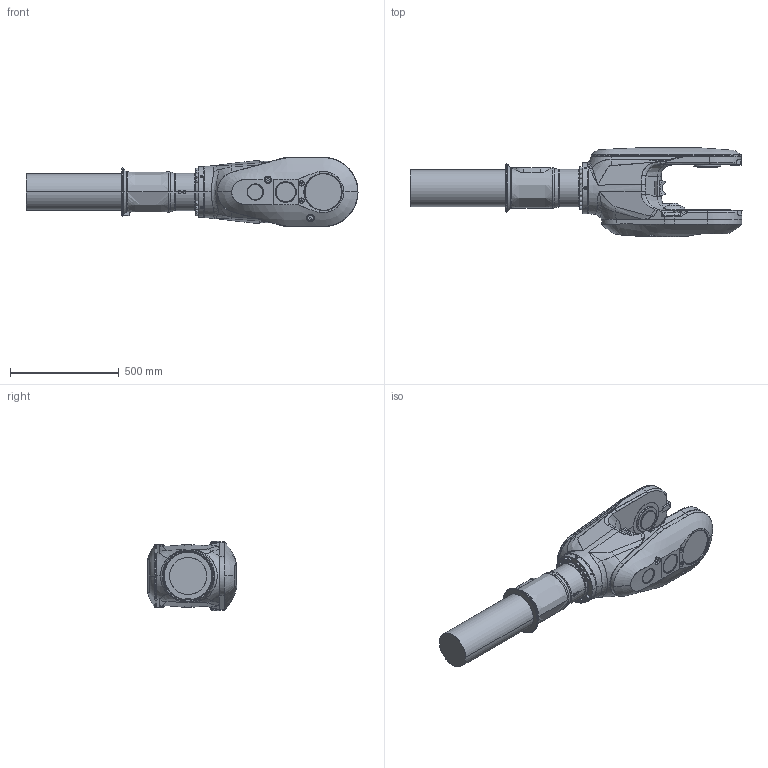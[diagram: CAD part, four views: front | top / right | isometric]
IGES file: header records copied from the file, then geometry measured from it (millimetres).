
Start section: SolidWorks IGES file using analytic representation for surfaces
Global section: file name: C:\Data\SAP_DOC\IRB6740_lightweight\6750S\IRB 6750S ASM\IRB6750S-LID-SW_270kg-320_OC_02_SW_J\IRB6750S-LID-SW_270kg-320_OC_02_IGES_J\IRB6750S_All-320_OC_00_LINK04_CAD.igs; native system: SolidWorks 2024; preprocessor: SolidWorks 2024; author: SEJAOLS6; date: 260507.084042; units: millimetre
Bounding box: 1524.5 x 409.36 x 318 mm (x, y, z)
Surface area: 1548774.1 mm2 (no closed solid volume)
Topology: 0 solids, 0 shells, 809 faces, 14170 edges, 14141 vertices
Faces by surface type: bspline 479, revolution 330
